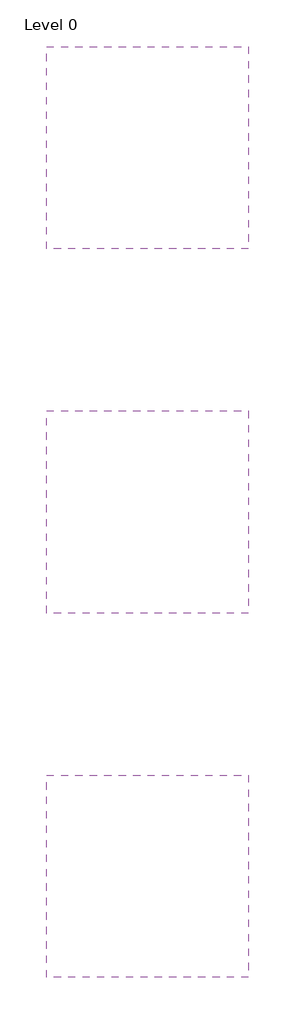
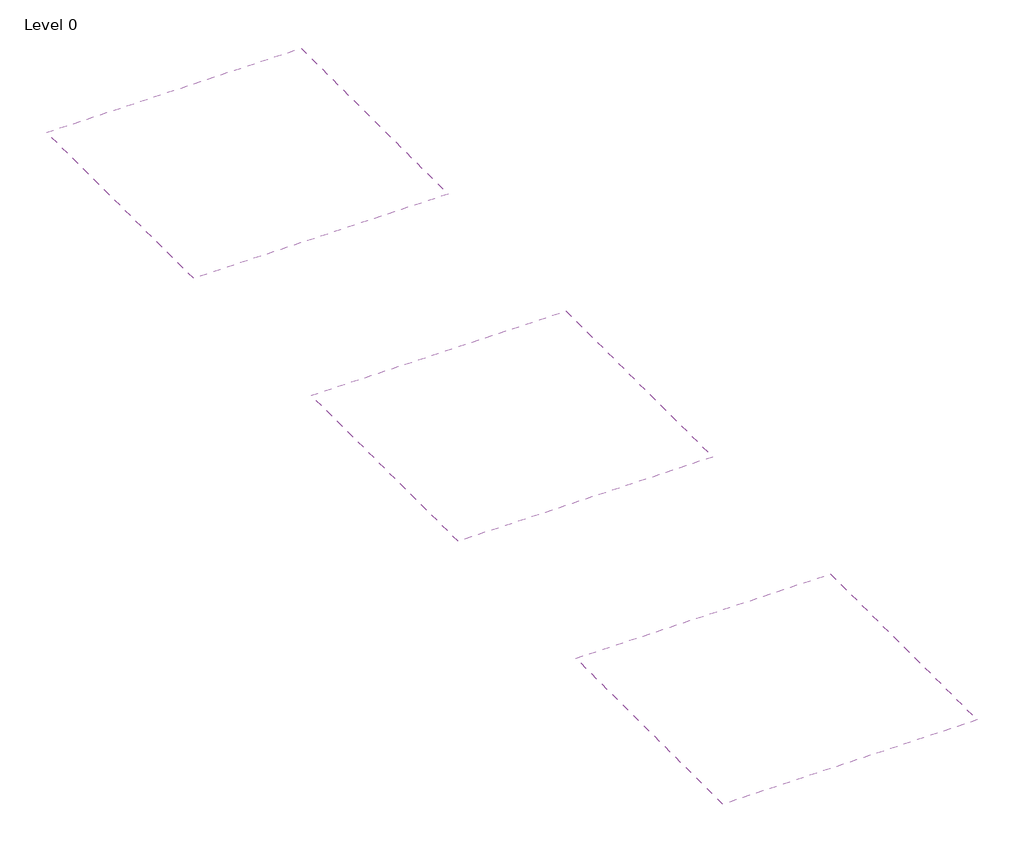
# One storey: 3 coverings.
"""IFC4 building model written with IfcOpenShell, lengths in millimetres."""

from ifc_helpers import new_model, si_unit, frame, origin, place, context, project, spatial, polyline, outline, extrude, element, save

model = new_model("IFC4")

# Units and contexts
model_context = context("Model", 3, world=origin())
ifc_project = project(units=[si_unit("LENGTHUNIT", "METRE", prefix="MILLI")], contexts=[model_context])

# Site, building, storey
site = spatial("IfcSite", under=ifc_project)
building = spatial("IfcBuilding", under=site)
storey = spatial("IfcBuildingStorey", under=building, Name="Level 0", Elevation=0.0)

# Coverings
placement = place(None, origin())
element("IfcCovering", 1, ObjectType="NBS_Zentia_ModularSuspendedCeilingSystems_Aruba_BoardEdgeInfills", at=placement, inside=storey, context=model_context, shape_type="SweptSolid", body=[
    extrude(outline(polyline([(2999.979, -2354.0852134), (2999.979, -4854.0852134), (499.979, -4854.0852134), (499.979, -2354.0852134), (2999.979, -2354.0852134)])), frame((0.0, 0.0, 2600.0), z_axis=(0.0, 0.0, 1.0), x_axis=(1.0, 0.0, 0.0)), (0.0, 0.0, 1.0), 16.0),
])
element("IfcCovering", 2, ObjectType="NBS_Zentia_ModularSuspendedCeilingSystems_Aruba_Tegular15EdgeInfills", at=placement, inside=storey, context=model_context, shape_type="SweptSolid", body=[
    extrude(outline(polyline([(2999.979, -6854.0852134), (2999.979, -9354.0852134), (499.979, -9354.0852134), (499.979, -6854.0852134), (2999.979, -6854.0852134)])), frame((0.0, 0.0, 2600.0), z_axis=(0.0, 0.0, 1.0), x_axis=(1.0, 0.0, 0.0)), (0.0, 0.0, 1.0), 16.0),
])
element("IfcCovering", 3, ObjectType="NBS_Zentia_ModularSuspendedCeilingSystems_Aruba_Tegular24EdgeInfills", at=placement, inside=storey, context=model_context, shape_type="SweptSolid", body=[
    extrude(outline(polyline([(2999.979, -11354.0852134), (2999.979, -13854.0852134), (499.979, -13854.0852134), (499.979, -11354.0852134), (2999.979, -11354.0852134)])), frame((0.0, 0.0, 2600.0), z_axis=(0.0, 0.0, 1.0), x_axis=(1.0, 0.0, 0.0)), (0.0, 0.0, 1.0), 16.0),
])

save(model, "model.ifc")
